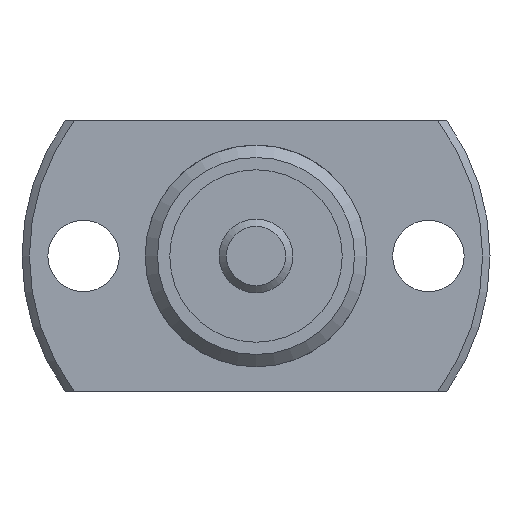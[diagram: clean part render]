
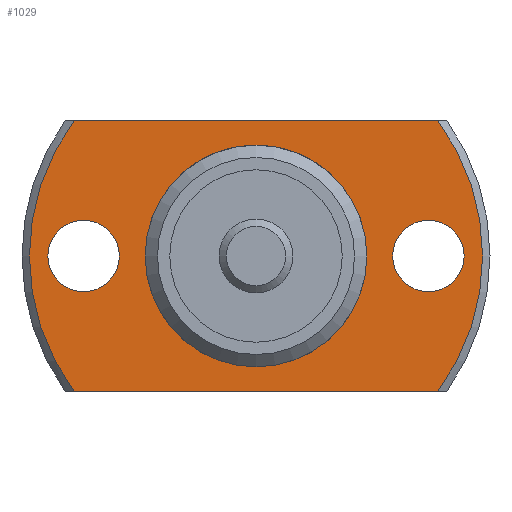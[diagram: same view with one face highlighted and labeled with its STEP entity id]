
A CAD part, left-side view. The second image highlights one B-rep face of the part: STEP entity #1029.
In plain terms, the highlighted planar face has unit normal (-1, 0, 0).
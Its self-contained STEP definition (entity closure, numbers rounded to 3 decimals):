
#94=LINE('',#1758,#154);
#95=LINE('',#1762,#155);
#154=VECTOR('',#1401,1000.);
#155=VECTOR('',#1404,1000.);
#292=ORIENTED_EDGE('',*,*,#527,.T.);
#293=ORIENTED_EDGE('',*,*,#528,.T.);
#294=ORIENTED_EDGE('',*,*,#516,.F.);
#295=ORIENTED_EDGE('',*,*,#529,.T.);
#296=ORIENTED_EDGE('',*,*,#530,.F.);
#297=ORIENTED_EDGE('',*,*,#531,.T.);
#298=ORIENTED_EDGE('',*,*,#510,.T.);
#510=EDGE_CURVE('',#638,#638,#718,.T.);
#516=EDGE_CURVE('',#643,#644,#721,.T.);
#527=EDGE_CURVE('',#653,#653,#727,.T.);
#528=EDGE_CURVE('',#654,#654,#728,.T.);
#529=EDGE_CURVE('',#643,#655,#94,.T.);
#530=EDGE_CURVE('',#656,#655,#729,.T.);
#531=EDGE_CURVE('',#656,#644,#95,.T.);
#638=VERTEX_POINT('',#1705);
#643=VERTEX_POINT('',#1719);
#644=VERTEX_POINT('',#1721);
#653=VERTEX_POINT('',#1755);
#654=VERTEX_POINT('',#1757);
#655=VERTEX_POINT('',#1759);
#656=VERTEX_POINT('',#1761);
#718=CIRCLE('',#1150,4.35);
#721=CIRCLE('',#1154,9.2);
#727=CIRCLE('',#1165,1.45);
#728=CIRCLE('',#1166,1.45);
#729=CIRCLE('',#1167,9.2);
#802=EDGE_LOOP('',(#292));
#803=EDGE_LOOP('',(#293));
#804=EDGE_LOOP('',(#294,#295,#296,#297));
#805=EDGE_LOOP('',(#298));
#908=FACE_BOUND('',#802,.T.);
#909=FACE_BOUND('',#803,.T.);
#910=FACE_BOUND('',#804,.T.);
#911=FACE_BOUND('',#805,.T.);
#972=PLANE('',#1164);
#1029=ADVANCED_FACE('',(#908,#909,#910,#911),#972,.F.);
#1150=AXIS2_PLACEMENT_3D('',#1704,#1363,#1364);
#1154=AXIS2_PLACEMENT_3D('',#1720,#1373,#1374);
#1164=AXIS2_PLACEMENT_3D('',#1753,#1395,#1396);
#1165=AXIS2_PLACEMENT_3D('',#1754,#1397,#1398);
#1166=AXIS2_PLACEMENT_3D('',#1756,#1399,#1400);
#1167=AXIS2_PLACEMENT_3D('',#1760,#1402,#1403);
#1363=DIRECTION('',(1.,0.,0.));
#1364=DIRECTION('',(0.,0.,-1.));
#1373=DIRECTION('',(1.,0.,0.));
#1374=DIRECTION('',(0.,0.,-1.));
#1395=DIRECTION('',(1.,0.,0.));
#1396=DIRECTION('',(0.,0.,-1.));
#1397=DIRECTION('',(1.,0.,0.));
#1398=DIRECTION('',(0.,0.,-1.));
#1399=DIRECTION('',(1.,0.,0.));
#1400=DIRECTION('',(0.,0.,-1.));
#1401=DIRECTION('',(0.,-1.,0.));
#1402=DIRECTION('',(1.,0.,0.));
#1403=DIRECTION('',(0.,0.,-1.));
#1404=DIRECTION('',(0.,1.,0.));
#1704=CARTESIAN_POINT('',(11.,0.,0.));
#1705=CARTESIAN_POINT('',(11.,0.,-4.35));
#1719=CARTESIAN_POINT('',(11.,7.375,-5.5));
#1720=CARTESIAN_POINT('',(11.,0.,0.));
#1721=CARTESIAN_POINT('',(11.,7.375,5.5));
#1753=CARTESIAN_POINT('',(11.,4.35,0.));
#1754=CARTESIAN_POINT('',(11.,-7.,0.));
#1755=CARTESIAN_POINT('',(11.,-7.,-1.45));
#1756=CARTESIAN_POINT('',(11.,7.,0.));
#1757=CARTESIAN_POINT('',(11.,7.,-1.45));
#1758=CARTESIAN_POINT('',(11.,4.35,-5.5));
#1759=CARTESIAN_POINT('',(11.,-7.375,-5.5));
#1760=CARTESIAN_POINT('',(11.,0.,0.));
#1761=CARTESIAN_POINT('',(11.,-7.375,5.5));
#1762=CARTESIAN_POINT('',(11.,4.35,5.5));
